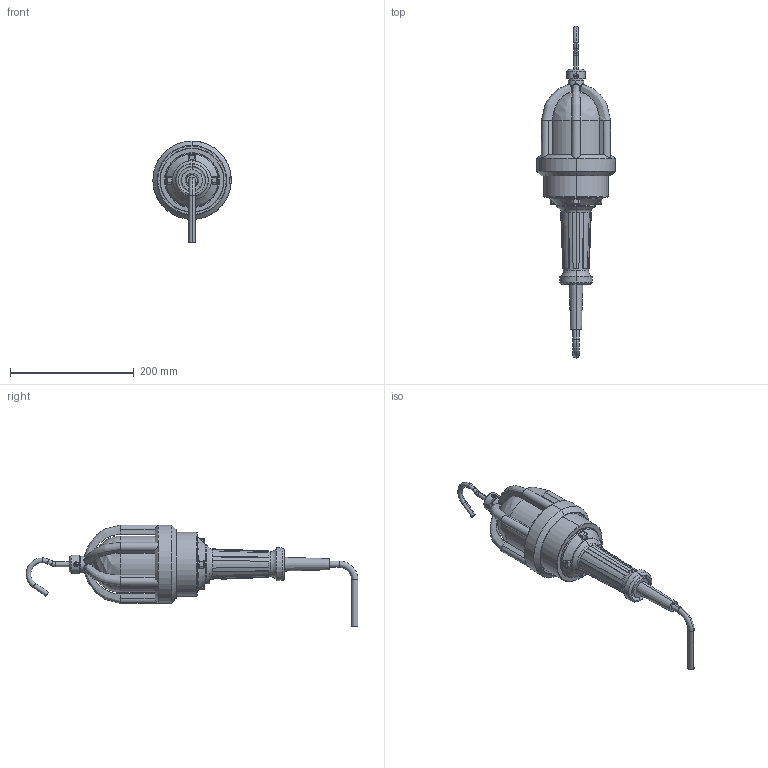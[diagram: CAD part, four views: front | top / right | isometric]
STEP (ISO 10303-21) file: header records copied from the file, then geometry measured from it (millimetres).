
FILE_DESCRIPTION (( 'STEP AP214' ), '1' );
FILE_NAME ('EPL-120V-DW with Cord.STEP', '2016-02-15T17:44:25', ( '' ), ( '' ), 'SwSTEP 2.0', 'SolidWorks 2016', '' );
FILE_SCHEMA (( 'AUTOMOTIVE_DESIGN' ));
Length unit declared in the file: inch
Products named in the file (2): EPL-120V-DW Part_Cord; EPL-120V-DW with Cord
Assembly tree (1 placements, depth 2):
  EPL-120V-DW with Cord
    EPL-120V-DW Part_Cord
Bounding box: 126.87 x 537.18 x 165.04 mm (x, y, z)
Volume: 1690091.5 mm3; surface area: 169558.8 mm2
Topology: 2 solids, 2 shells, 274 faces, 677 edges, 412 vertices
Faces by surface type: plane 96, cylinder 79, cone 33, sphere 26, torus 20, bspline 20
Entity records: 12172 total; most frequent: CARTESIAN_POINT 5787, ORIENTED_EDGE 1334, DIRECTION 1291, EDGE_CURVE 667, AXIS2_PLACEMENT_3D 548, VERTEX_POINT 412, EDGE_LOOP 299, CIRCLE 290
